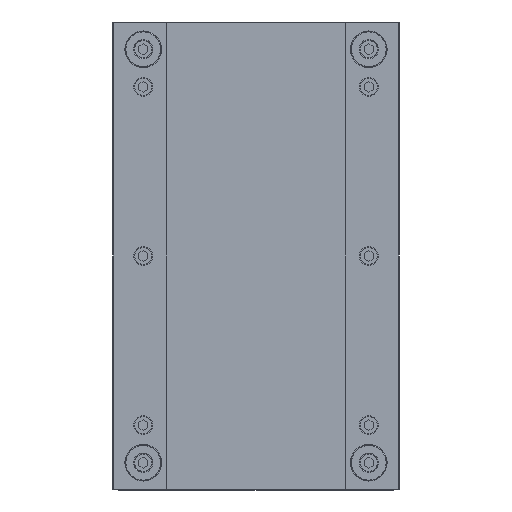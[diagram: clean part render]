
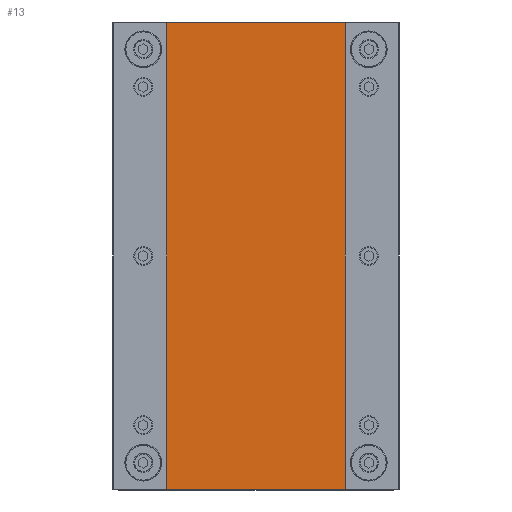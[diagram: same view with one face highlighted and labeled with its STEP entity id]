
A CAD part, front view. The second image highlights one B-rep face of the part: STEP entity #13.
In plain terms, the highlighted planar face has unit normal (0, -1, 0).
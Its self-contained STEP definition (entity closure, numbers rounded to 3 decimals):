
#13 = ADVANCED_FACE ( 'NONE', ( #1152 ), #1153, .F. ) ;
#242 = VERTEX_POINT ( 'NONE', #1787 ) ;
#363 = EDGE_CURVE ( 'NONE', #395, #242, #2152, .T. ) ;
#395 = VERTEX_POINT ( 'NONE', #2224 ) ;
#682 = EDGE_LOOP ( 'NONE', ( #777, #967, #1033, #5303 ) ) ;
#777 = ORIENTED_EDGE ( 'NONE', *, *, #850, .T. ) ;
#850 = EDGE_CURVE ( 'NONE', #242, #1746, #3344, .T. ) ;
#967 = ORIENTED_EDGE ( 'NONE', *, *, #6908, .F. ) ;
#1033 = ORIENTED_EDGE ( 'NONE', *, *, #4730, .F. ) ;
#1152 = FACE_OUTER_BOUND ( 'NONE', #682, .T. ) ;
#1153 = PLANE ( 'NONE',  #1154 ) ;
#1154 = AXIS2_PLACEMENT_3D ( 'NONE', #1155, #1156, #1157 ) ;
#1155 = CARTESIAN_POINT ( 'NONE',  ( 99.5, -20., 248. ) ) ;
#1156 = DIRECTION ( 'NONE',  ( 0., 1., 0. ) ) ;
#1157 = DIRECTION ( 'NONE',  ( -1., 0., 0. ) ) ;
#1746 = VERTEX_POINT ( 'NONE', #4461 ) ;
#1787 = CARTESIAN_POINT ( 'NONE',  ( -99.5, -20., -248. ) ) ;
#2152 = LINE ( 'NONE', #2153, #2154 ) ;
#2153 = CARTESIAN_POINT ( 'NONE',  ( -99.5, -20., 248. ) ) ;
#2154 = VECTOR ( 'NONE', #2155, 1000. ) ;
#2155 = DIRECTION ( 'NONE',  ( 0., 0., -1. ) ) ;
#2224 = CARTESIAN_POINT ( 'NONE',  ( -99.5, -20., 248. ) ) ;
#3344 = LINE ( 'NONE', #3345, #3346 ) ;
#3345 = CARTESIAN_POINT ( 'NONE',  ( 99.5, -20., -248. ) ) ;
#3346 = VECTOR ( 'NONE', #3347, 1000. ) ;
#3347 = DIRECTION ( 'NONE',  ( 1., 0., 0. ) ) ;
#4461 = CARTESIAN_POINT ( 'NONE',  ( 99.5, -20., -248. ) ) ;
#4730 = EDGE_CURVE ( 'NONE', #395, #5993, #7014, .T. ) ;
#5303 = ORIENTED_EDGE ( 'NONE', *, *, #363, .T. ) ;
#5993 = VERTEX_POINT ( 'NONE', #7731 ) ;
#6908 = EDGE_CURVE ( 'NONE', #5993, #1746, #8298, .T. ) ;
#7014 = LINE ( 'NONE', #7015, #7016 ) ;
#7015 = CARTESIAN_POINT ( 'NONE',  ( 99.5, -20., 248. ) ) ;
#7016 = VECTOR ( 'NONE', #7017, 1000. ) ;
#7017 = DIRECTION ( 'NONE',  ( 1., 0., 0. ) ) ;
#7731 = CARTESIAN_POINT ( 'NONE',  ( 99.5, -20., 248. ) ) ;
#8298 = LINE ( 'NONE', #8299, #8300 ) ;
#8299 = CARTESIAN_POINT ( 'NONE',  ( 99.5, -20., 248. ) ) ;
#8300 = VECTOR ( 'NONE', #8301, 1000. ) ;
#8301 = DIRECTION ( 'NONE',  ( 0., 0., -1. ) ) ;
